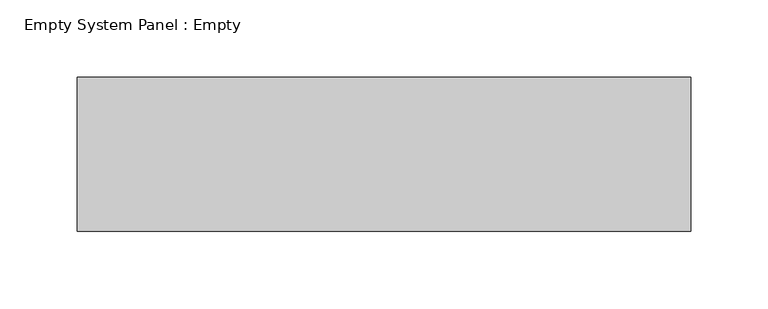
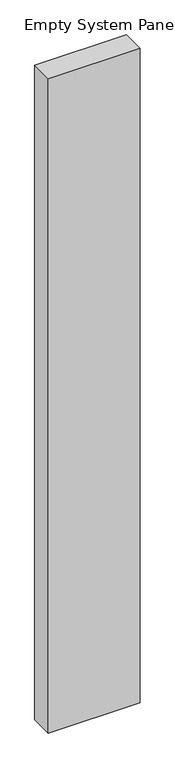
"""IFC4 building model written with IfcOpenShell, lengths in millimetres: plate geometry, Empty System Panel : Empty."""

import ifcopenshell
import ifcopenshell.guid

model = None  # the IFC model being written
_history = None  # IfcOwnerHistory: only IFC2X3 demands one
_inside = {}  # id of a spatial element -> (the spatial element, [elements in it])
_under = {}  # id of a project, library or spatial element -> (it, [spatial elements below it])
_declared = {}  # id of a project -> (the project, [libraries it declares])
_typed = {}  # id of a type object -> (the type object, [elements of that type])
_made_of = {}  # id of a material, layer set ... -> (it, [elements and type objects made of it])


def new_model(schema):
    """Start an empty IFC model of exactly this schema.

    Asked for "IFC4X3", IfcOpenShell would pick the latest addendum, in which some entities
    have other attributes; the version numbers below select the first issue.
    IFC2X3 requires an IfcOwnerHistory on every rooted entity: one is made here for all.
    """
    global model, _history
    if schema == "IFC4X3":
        model = ifcopenshell.file(schema_version=(4, 3, 0, 0))
    else:
        model = ifcopenshell.file(schema=schema)
    _inside.clear()
    _under.clear()
    _declared.clear()
    _typed.clear()
    _made_of.clear()
    _history = None
    if model.schema == "IFC2X3":
        org = make("IfcOrganization", Name="unknown")
        user = make(
            "IfcPersonAndOrganization",
            ThePerson=make("IfcPerson", FamilyName="unknown"),
            TheOrganization=org,
        )
        app = make(
            "IfcApplication",
            ApplicationDeveloper=org,
            Version="unknown",
            ApplicationFullName="unknown",
            ApplicationIdentifier="unknown",
        )
        _history = make(
            "IfcOwnerHistory",
            OwningUser=user,
            OwningApplication=app,
            ChangeAction="ADDED",
            CreationDate=0,
        )
    return model


def make(cls, **values):
    """One entity of the class cls with the attributes given. An attribute that is None is left unset."""
    return model.create_entity(
        cls, **{name: value for name, value in values.items() if value is not None}
    )


def rooted(cls, **values):
    """An entity with a GlobalId (a new one), such as an element, a storey or a relation."""
    return make(cls, GlobalId=ifcopenshell.guid.new(), OwnerHistory=_history, **values)


def si_unit(unit_type, name, prefix=None):
    """IfcSIUnit, for example si_unit("LENGTHUNIT", "METRE", prefix="MILLI")."""
    return make("IfcSIUnit", UnitType=unit_type, Prefix=prefix, Name=name)


def assignment(units):
    """IfcUnitAssignment: the units of a project."""
    return None if units is None else make("IfcUnitAssignment", Units=units)


def point(xyz):
    """IfcCartesianPoint."""
    return None if xyz is None else make("IfcCartesianPoint", Coordinates=xyz)


def direction(xyz):
    """IfcDirection."""
    return None if xyz is None else make("IfcDirection", DirectionRatios=xyz)


def frame(location, z_axis=None, x_axis=None):
    """IfcAxis2Placement3D, a coordinate frame: its origin and axes. An axis left out is left unset."""
    return make(
        "IfcAxis2Placement3D",
        Location=point(location),
        Axis=direction(z_axis),
        RefDirection=direction(x_axis),
    )


def origin():
    """The frame at (0, 0, 0) with its axes left unset."""
    return frame((0.0, 0.0, 0.0))


def origin_with_axes():
    """The frame at (0, 0, 0) with the z axis (0, 0, 1) and the x axis (1, 0, 0) written out."""
    return frame((0.0, 0.0, 0.0), z_axis=(0.0, 0.0, 1.0), x_axis=(1.0, 0.0, 0.0))


def place(relative_to, where):
    """IfcLocalPlacement: puts the frame where relative to a parent placement (None: the world)."""
    return make(
        "IfcLocalPlacement", PlacementRelTo=relative_to, RelativePlacement=where
    )


def context(
    kind, dimensions, precision=None, world=None, true_north=None, identifier=None
):
    """IfcGeometricRepresentationContext, for example the 3D "Model" context."""
    return make(
        "IfcGeometricRepresentationContext",
        ContextIdentifier=identifier,
        ContextType=kind,
        CoordinateSpaceDimension=dimensions,
        Precision=precision,
        WorldCoordinateSystem=world,
        TrueNorth=true_north,
    )


def project(units=None, contexts=None):
    """IfcProject with its units and contexts."""
    return rooted(
        "IfcProject",
        Name="project",
        RepresentationContexts=contexts,
        UnitsInContext=assignment(units),
    )


def spatial(cls, under=None, at=None, **own):
    """A site, building, storey or space (cls), placed at a placement, below another one or the project."""
    s = rooted(cls, ObjectPlacement=at, **own)
    if under is not None:
        _under.setdefault(under.id(), (under, []))[1].append(s)
    return s


def polyline(points):
    """IfcPolyline through the points."""
    return make("IfcPolyline", Points=[point(p) for p in points])


def outline(outer, holes=None, kind="AREA"):
    """IfcArbitraryClosedProfileDef: a profile drawn as a closed curve; with holes, ...WithVoids."""
    if holes is None:
        return make("IfcArbitraryClosedProfileDef", ProfileType=kind, OuterCurve=outer)
    return make(
        "IfcArbitraryProfileDefWithVoids",
        ProfileType=kind,
        OuterCurve=outer,
        InnerCurves=holes,
    )


def extrude(swept, where, along, depth):
    """IfcExtrudedAreaSolid: the profile swept, set in the frame where, extruded along a direction by depth."""
    return make(
        "IfcExtrudedAreaSolid",
        SweptArea=swept,
        Position=where,
        ExtrudedDirection=direction(along),
        Depth=depth,
    )


def shape(context_of_items, identifier, shape_type, items):
    """IfcShapeRepresentation: the items that make up one representation, for example the "Body"."""
    return make(
        "IfcShapeRepresentation",
        ContextOfItems=context_of_items,
        RepresentationIdentifier=identifier,
        RepresentationType=shape_type,
        Items=items,
    )


def source(mapping_origin, context_of_items, identifier, shape_type, items):
    """IfcRepresentationMap: a shape defined once, which mapped items show again and again."""
    return make(
        "IfcRepresentationMap",
        MappingOrigin=mapping_origin,
        MappedRepresentation=shape(context_of_items, identifier, shape_type, items),
    )


def transform(
    local_origin,
    x_axis=None,
    y_axis=None,
    z_axis=None,
    scale=None,
    scale2=None,
    scale3=None,
    uniform=True,
):
    """IfcCartesianTransformationOperator3D, or its non-uniform kind. x_axis, y_axis, z_axis: its Axis1, 2, 3."""
    if uniform:
        return make(
            "IfcCartesianTransformationOperator3D",
            Axis1=direction(x_axis),
            Axis2=direction(y_axis),
            LocalOrigin=point(local_origin),
            Scale=scale,
            Axis3=direction(z_axis),
        )
    return make(
        "IfcCartesianTransformationOperator3DnonUniform",
        Axis1=direction(x_axis),
        Axis2=direction(y_axis),
        LocalOrigin=point(local_origin),
        Scale=scale,
        Axis3=direction(z_axis),
        Scale2=scale2,
        Scale3=scale3,
    )


def mapped(mapping_source, mapping_target):
    """IfcMappedItem: shows the shape of a source again, moved by a transform."""
    return make(
        "IfcMappedItem", MappingSource=mapping_source, MappingTarget=mapping_target
    )


def made_of(thing, what):
    """Note that an element or type object is made of a material, layer set ...; save() writes the relation."""
    if what is not None:
        _made_of.setdefault(what.id(), (what, []))[1].append(thing)
    return thing


def element(
    cls,
    number,
    at=None,
    inside=None,
    cuts=None,
    type_object=None,
    material=None,
    context=None,
    identifier="Body",
    shape_type=None,
    held_by="IfcProductDefinitionShape",
    body=None,
    shapes=None,
    **own,
):
    """One element of the class cls, such as IfcWall. Its Tag is "e" and its number.

    at: its placement. inside: the storey or other place that contains it. cuts: it is an
    opening in that element (IfcRelVoidsElement). A single representation is given by context,
    identifier, shape_type and body (its items); several are given by shapes. held_by: the class
    of the entity that holds the representations. save() writes the other relations.
    """
    e = rooted(cls, Tag="e%d" % number, ObjectPlacement=at, **own)
    if body is not None:
        shapes = [shape(context, identifier, shape_type, body)]
    if shapes is not None:
        e.Representation = make(held_by, Representations=shapes)
    if inside is not None:
        _inside.setdefault(inside.id(), (inside, []))[1].append(e)
    if cuts is not None:
        rooted(
            "IfcRelVoidsElement", RelatingBuildingElement=cuts, RelatedOpeningElement=e
        )
    if type_object is not None:
        _typed.setdefault(type_object.id(), (type_object, []))[1].append(e)
    return made_of(e, material)


def aggregate(whole, parts):
    """IfcRelAggregates: a whole, such as a stair, and the parts it consists of."""
    return rooted("IfcRelAggregates", RelatingObject=whole, RelatedObjects=parts)


def save(model, path):
    """Write the relations noted so far, then the file.

    IfcRelAggregates (storeys below a building ...), IfcRelContainedInSpatialStructure (elements
    in a storey), IfcRelDefinesByType, IfcRelAssociatesMaterial and IfcRelDeclares: one each for
    every whole, place, type object, material and project.
    """
    for whole, parts in _under.values():
        aggregate(whole, parts)
    for where, things in _inside.values():
        rooted(
            "IfcRelContainedInSpatialStructure",
            RelatedElements=things,
            RelatingStructure=where,
        )
    for kind, things in _typed.values():
        rooted("IfcRelDefinesByType", RelatedObjects=things, RelatingType=kind)
    for what, things in _made_of.values():
        rooted("IfcRelAssociatesMaterial", RelatedObjects=things, RelatingMaterial=what)
    for by, libraries in _declared.values():
        rooted("IfcRelDeclares", RelatingContext=by, RelatedDefinitions=libraries)
    model.write(path)


def empty_system_panel_empty_62476c0a(model_context):
    return source(origin(), model_context, "Body", "SweptSolid", [
        extrude(outline(polyline([(199.2624099, -50.0), (-199.2624099, -50.0), (-199.2624099, 50.0), (199.2624099, 50.0), (199.2624099, -50.0)])), origin_with_axes(), (0.0, 0.0, 1.0), 3000.0),
    ])


if __name__ == "__main__":
    model = new_model("IFC4")
    model_context = context("Model", 3, world=origin())
    ifc_project = project(units=[si_unit("LENGTHUNIT", "METRE", prefix="MILLI")], contexts=[model_context])
    site = spatial("IfcSite", under=ifc_project)
    building = spatial("IfcBuilding", under=site)
    placement = place(None, origin())
    empty_system_panel_empty_shape = empty_system_panel_empty_62476c0a(model_context)
    element("IfcPlate", 1, ObjectType="Empty System Panel : Empty", at=placement, inside=building, context=model_context, shape_type="MappedRepresentation", body=[
        mapped(empty_system_panel_empty_shape, transform((0.0, 0.0, 0.0), x_axis=(1.0, 0.0, 0.0), y_axis=(0.0, 1.0, 0.0), z_axis=(0.0, 0.0, 1.0))),
    ])
    save(model, "model.ifc")
